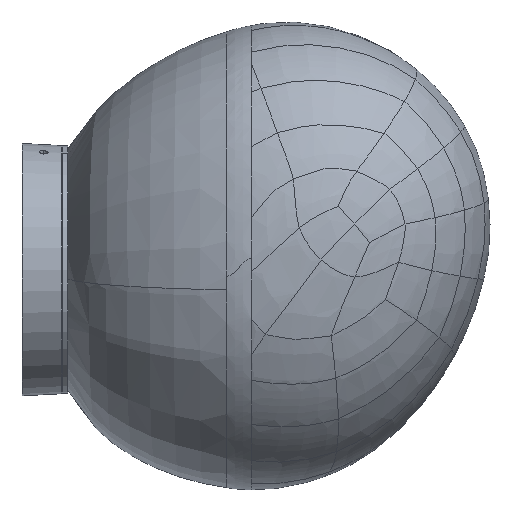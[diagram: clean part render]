
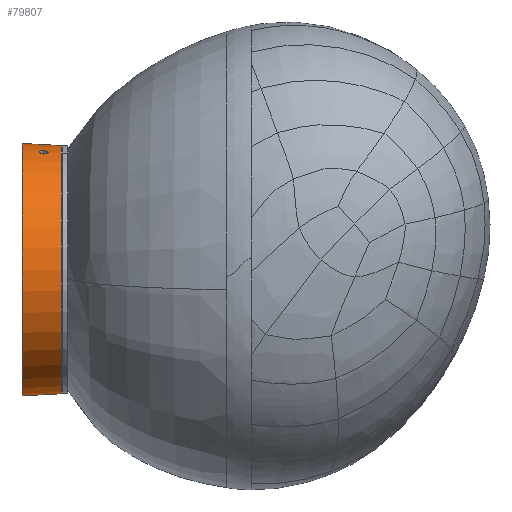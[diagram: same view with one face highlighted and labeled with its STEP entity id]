
A CAD part, left-side view. The second image highlights one B-rep face of the part: STEP entity #79807.
In plain terms, the highlighted conical face has half-angle 3 degrees and reference radius 46 mm.
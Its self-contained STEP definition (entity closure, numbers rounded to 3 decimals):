
#1290 = CARTESIAN_POINT ( 'NONE',  ( -176.127, 80.134, 87.096 ) ) ;
#2515 = CARTESIAN_POINT ( 'NONE',  ( -174.072, 78.785, 87.796 ) ) ;
#3640 = CARTESIAN_POINT ( 'NONE',  ( -158.742, 88.35, 44.124 ) ) ;
#6039 = CARTESIAN_POINT ( 'NONE',  ( -173.054, 80.565, 88.238 ) ) ;
#7236 = CARTESIAN_POINT ( 'NONE',  ( -176.141, 80.35, 87.102 ) ) ;
#9777 = EDGE_CURVE ( 'NONE', #227586, #150759, #88994, .T. ) ;
#14329 = VERTEX_POINT ( 'NONE', #217484 ) ;
#16175 = CARTESIAN_POINT ( 'NONE',  ( -158.742, 88.35, -2.662 ) ) ;
#18798 = EDGE_CURVE ( 'NONE', #189172, #150759, #44473, .T. ) ;
#21354 = EDGE_CURVE ( 'NONE', #79691, #101133, #170022, .T. ) ;
#23014 = ORIENTED_EDGE ( 'NONE', *, *, #208755, .F. ) ;
#23491 = CARTESIAN_POINT ( 'NONE',  ( -174.168, 78.753, 87.761 ) ) ;
#24600 = CARTESIAN_POINT ( 'NONE',  ( -173.13, 80.882, 88.231 ) ) ;
#25025 = EDGE_CURVE ( 'NONE', #14329, #189172, #215908, .T. ) ;
#26696 = ORIENTED_EDGE ( 'NONE', *, *, #70728, .T. ) ;
#27001 = CARTESIAN_POINT ( 'NONE',  ( -173.593, 81.592, 88.117 ) ) ;
#28203 = CARTESIAN_POINT ( 'NONE',  ( -173.847, 81.782, 88.041 ) ) ;
#30381 = CARTESIAN_POINT ( 'NONE',  ( -173.04, 80.35, 88.231 ) ) ;
#35127 = VECTOR ( 'NONE', #200569, 1000. ) ;
#35265 = DIRECTION ( 'NONE',  ( 0., 0., 1. ) ) ;
#37149 = CARTESIAN_POINT ( 'NONE',  ( -173.335, 79.337, 88.079 ) ) ;
#38368 = CARTESIAN_POINT ( 'NONE',  ( -173.55, 79.107, 87.994 ) ) ;
#43137 = CARTESIAN_POINT ( 'NONE',  ( -176.109, 80.782, 87.14 ) ) ;
#44339 = CARTESIAN_POINT ( 'NONE',  ( -175.783, 81.44, 87.307 ) ) ;
#44473 = LINE ( 'NONE', #195397, #65437 ) ;
#46757 = DIRECTION ( 'NONE',  ( 0., 0., 1. ) ) ;
#50418 = DIRECTION ( 'NONE',  ( 0., 1., 0. ) ) ;
#55712 = CARTESIAN_POINT ( 'NONE',  ( -175.598, 79.106, 87.249 ) ) ;
#58157 = CARTESIAN_POINT ( 'NONE',  ( -176.054, 79.819, 87.108 ) ) ;
#61711 = CARTESIAN_POINT ( 'NONE',  ( -176., 81.08, 87.201 ) ) ;
#65437 = VECTOR ( 'NONE', #209128, 1000. ) ;
#67505 = FACE_BOUND ( 'NONE', #138651, .T. ) ;
#70728 = EDGE_CURVE ( 'NONE', #101133, #79691, #157704, .T. ) ;
#74291 = CARTESIAN_POINT ( 'NONE',  ( -173.794, 78.919, 87.9 ) ) ;
#79691 = VERTEX_POINT ( 'NONE', #30381 ) ;
#79807 = ADVANCED_FACE ( 'NONE', ( #161496, #67505 ), #124093, .T. ) ;
#82704 = CARTESIAN_POINT ( 'NONE',  ( -175.314, 81.833, 87.511 ) ) ;
#84809 = ORIENTED_EDGE ( 'NONE', *, *, #21354, .T. ) ;
#85120 = CARTESIAN_POINT ( 'NONE',  ( -175.845, 81.357, 87.278 ) ) ;
#88994 = CIRCLE ( 'NONE', #96972, 46.786 ) ;
#89047 = EDGE_LOOP ( 'NONE', ( #23014, #218238, #209050, #139138 ) ) ;
#91254 = DIRECTION ( 'NONE',  ( 0., 0., -1. ) ) ;
#95322 = CARTESIAN_POINT ( 'NONE',  ( -175.519, 79.038, 87.275 ) ) ;
#96972 = AXIS2_PLACEMENT_3D ( 'NONE', #3640, #176676, #46757 ) ;
#97628 = CARTESIAN_POINT ( 'NONE',  ( -158.742, 73.824, 90.149 ) ) ;
#99228 = CARTESIAN_POINT ( 'NONE',  ( -158.742, 88.35, 90.91 ) ) ;
#101133 = VERTEX_POINT ( 'NONE', #237169 ) ;
#101268 = CARTESIAN_POINT ( 'NONE',  ( -175.954, 81.177, 87.225 ) ) ;
#104519 = AXIS2_PLACEMENT_3D ( 'NONE', #142953, #238203, #35265 ) ;
#112651 = CARTESIAN_POINT ( 'NONE',  ( -174.469, 78.7, 87.65 ) ) ;
#113869 = CARTESIAN_POINT ( 'NONE',  ( -174.773, 78.7, 87.54 ) ) ;
#115096 = CARTESIAN_POINT ( 'NONE',  ( -173.038, 80.243, 88.226 ) ) ;
#119820 = CARTESIAN_POINT ( 'NONE',  ( -173.042, 80.458, 88.236 ) ) ;
#124093 = CONICAL_SURFACE ( 'NONE', #104519, 46., 0.052 ) ;
#124669 = CARTESIAN_POINT ( 'NONE',  ( -158.742, 73.824, 44.124 ) ) ;
#131182 = CARTESIAN_POINT ( 'NONE',  ( -175.258, 78.867, 87.366 ) ) ;
#132408 = CARTESIAN_POINT ( 'NONE',  ( -173.885, 78.867, 87.866 ) ) ;
#134846 = CARTESIAN_POINT ( 'NONE',  ( -176.141, 80.35, 87.102 ) ) ;
#136991 = AXIS2_PLACEMENT_3D ( 'NONE', #124669, #50418, #91254 ) ;
#137154 = CARTESIAN_POINT ( 'NONE',  ( -175.566, 81.662, 87.405 ) ) ;
#138362 = CARTESIAN_POINT ( 'NONE',  ( -173.252, 81.18, 88.208 ) ) ;
#138651 = EDGE_LOOP ( 'NONE', ( #84809, #26696 ) ) ;
#139138 = ORIENTED_EDGE ( 'NONE', *, *, #9777, .F. ) ;
#140762 = CARTESIAN_POINT ( 'NONE',  ( -174.127, 81.916, 87.951 ) ) ;
#142953 = CARTESIAN_POINT ( 'NONE',  ( -158.742, 73.35, 44.124 ) ) ;
#149737 = CARTESIAN_POINT ( 'NONE',  ( -174.367, 78.711, 87.688 ) ) ;
#150759 = VERTEX_POINT ( 'NONE', #99228 ) ;
#150963 = CARTESIAN_POINT ( 'NONE',  ( -173.04, 80.35, 88.231 ) ) ;
#153400 = CARTESIAN_POINT ( 'NONE',  ( -173.627, 79.039, 87.964 ) ) ;
#157704 = B_SPLINE_CURVE_WITH_KNOTS ( 'NONE', 3,
 ( #7236, #234776, #43137, #61711, #101268, #85120, #44339, #176663, #137154, #175469, #82704, #233573, #158123, #160524, #196463, #235990, #140762, #217446, #28203, #212624, #27001, #194061, #138362, #24600, #195263, #6039, #119820, #216225 ),
 .UNSPECIFIED., .F., .F.,
 ( 4, 2, 2, 2, 2, 2, 2, 2, 2, 2, 2, 2, 2, 4 ),
 ( 0.001, 0.001, 0.002, 0.002, 0.002, 0.003, 0.003, 0.004, 0.004, 0.004, 0.005, 0.005, 0.006, 0.006 ),
 .UNSPECIFIED. ) ;
#158123 = CARTESIAN_POINT ( 'NONE',  ( -174.834, 82., 87.701 ) ) ;
#160524 = CARTESIAN_POINT ( 'NONE',  ( -174.528, 82., 87.813 ) ) ;
#161496 = FACE_OUTER_BOUND ( 'NONE', #89047, .T. ) ;
#169484 = CARTESIAN_POINT ( 'NONE',  ( -173.046, 80.133, 88.217 ) ) ;
#170022 = B_SPLINE_CURVE_WITH_KNOTS ( 'NONE', 3,
 ( #150963, #115096, #169484, #226417, #227631, #192952, #37149, #38368, #153400, #74291, #132408, #2515, #23491, #149737, #112651, #113869, #191740, #131182, #189296, #95322, #55712, #206657, #173139, #58157, #170712, #1290, #209098, #134846 ),
 .UNSPECIFIED., .F., .F.,
 ( 4, 2, 2, 2, 2, 2, 2, 2, 2, 2, 2, 2, 2, 4 ),
 ( 0.006, 0.006, 0.007, 0.007, 0.008, 0.008, 0.008, 0.009, 0.009, 0.01, 0.01, 0.01, 0.011, 0.011 ),
 .UNSPECIFIED. ) ;
#170712 = CARTESIAN_POINT ( 'NONE',  ( -176.084, 79.922, 87.101 ) ) ;
#173139 = CARTESIAN_POINT ( 'NONE',  ( -175.934, 79.521, 87.139 ) ) ;
#175469 = CARTESIAN_POINT ( 'NONE',  ( -175.401, 81.782, 87.475 ) ) ;
#176663 = CARTESIAN_POINT ( 'NONE',  ( -175.644, 81.592, 87.37 ) ) ;
#176676 = DIRECTION ( 'NONE',  ( 0., 1., 0. ) ) ;
#189172 = VERTEX_POINT ( 'NONE', #97628 ) ;
#189296 = CARTESIAN_POINT ( 'NONE',  ( -175.349, 78.918, 87.334 ) ) ;
#191740 = CARTESIAN_POINT ( 'NONE',  ( -174.977, 78.743, 87.466 ) ) ;
#192952 = CARTESIAN_POINT ( 'NONE',  ( -173.223, 79.519, 88.126 ) ) ;
#194061 = CARTESIAN_POINT ( 'NONE',  ( -173.373, 81.364, 88.178 ) ) ;
#195263 = CARTESIAN_POINT ( 'NONE',  ( -173.098, 80.777, 88.236 ) ) ;
#195397 = CARTESIAN_POINT ( 'NONE',  ( -158.742, 73.35, 90.124 ) ) ;
#196463 = CARTESIAN_POINT ( 'NONE',  ( -174.427, 81.99, 87.849 ) ) ;
#200569 = DIRECTION ( 'NONE',  ( 0., 0.999, -0.052 ) ) ;
#206657 = CARTESIAN_POINT ( 'NONE',  ( -175.815, 79.335, 87.176 ) ) ;
#208755 = EDGE_CURVE ( 'NONE', #14329, #227586, #238896, .T. ) ;
#209050 = ORIENTED_EDGE ( 'NONE', *, *, #18798, .T. ) ;
#209098 = CARTESIAN_POINT ( 'NONE',  ( -176.139, 80.243, 87.097 ) ) ;
#209128 = DIRECTION ( 'NONE',  ( 0., 0.999, 0.052 ) ) ;
#212624 = CARTESIAN_POINT ( 'NONE',  ( -173.674, 81.662, 88.093 ) ) ;
#215908 = CIRCLE ( 'NONE', #136991, 46.025 ) ;
#216225 = CARTESIAN_POINT ( 'NONE',  ( -173.04, 80.35, 88.231 ) ) ;
#216671 = CARTESIAN_POINT ( 'NONE',  ( -158.742, 73.35, -1.876 ) ) ;
#217446 = CARTESIAN_POINT ( 'NONE',  ( -173.937, 81.833, 88.013 ) ) ;
#217484 = CARTESIAN_POINT ( 'NONE',  ( -158.742, 73.824, -1.901 ) ) ;
#218238 = ORIENTED_EDGE ( 'NONE', *, *, #25025, .T. ) ;
#226417 = CARTESIAN_POINT ( 'NONE',  ( -173.083, 79.922, 88.194 ) ) ;
#227586 = VERTEX_POINT ( 'NONE', #16175 ) ;
#227631 = CARTESIAN_POINT ( 'NONE',  ( -173.11, 79.82, 88.179 ) ) ;
#233573 = CARTESIAN_POINT ( 'NONE',  ( -175.034, 81.958, 87.624 ) ) ;
#234776 = CARTESIAN_POINT ( 'NONE',  ( -176.145, 80.565, 87.113 ) ) ;
#235990 = CARTESIAN_POINT ( 'NONE',  ( -174.227, 81.948, 87.918 ) ) ;
#237169 = CARTESIAN_POINT ( 'NONE',  ( -176.141, 80.35, 87.102 ) ) ;
#238203 = DIRECTION ( 'NONE',  ( 0., 1., 0. ) ) ;
#238896 = LINE ( 'NONE', #216671, #35127 ) ;
